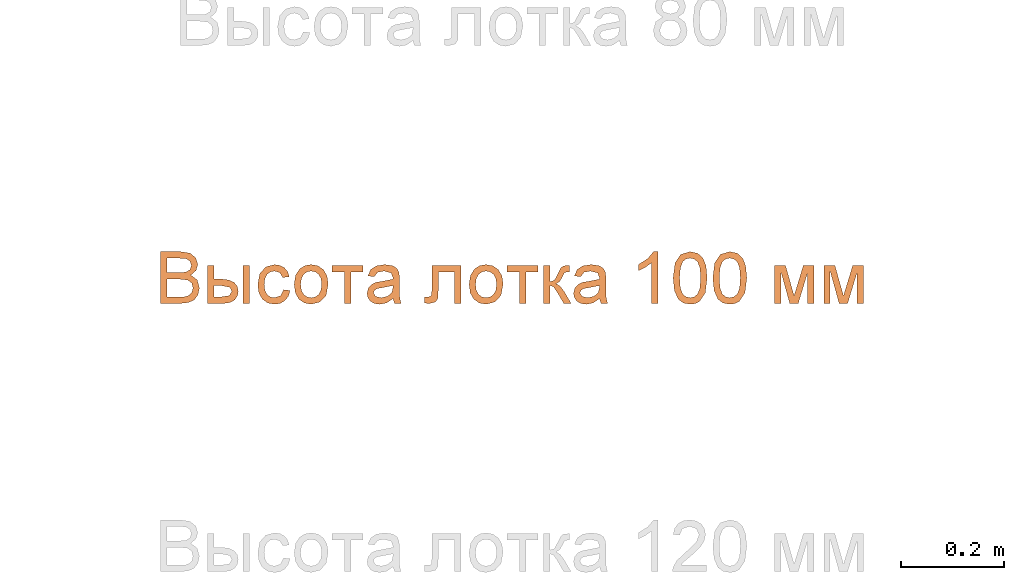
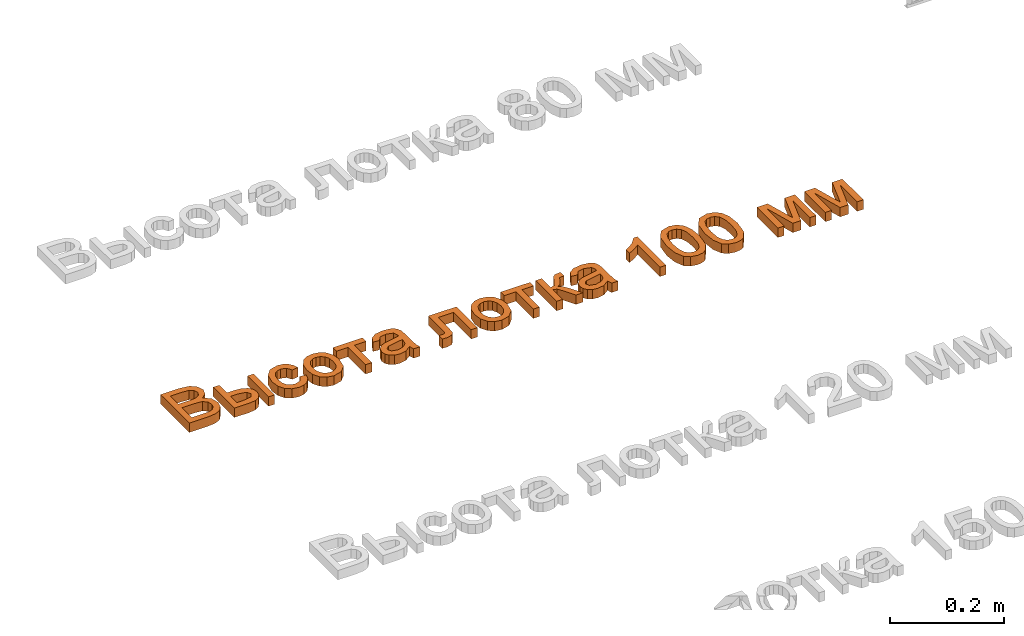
# One storey, part 26 of 71: 1 proxy.
"""IFC2X3 building model written with IfcOpenShell, lengths in millimetres."""

import ifcopenshell
import ifcopenshell.guid

model = None  # the IFC model being written
_history = None  # IfcOwnerHistory: only IFC2X3 demands one
_inside = {}  # id of a spatial element -> (the spatial element, [elements in it])
_under = {}  # id of a project, library or spatial element -> (it, [spatial elements below it])
_declared = {}  # id of a project -> (the project, [libraries it declares])
_typed = {}  # id of a type object -> (the type object, [elements of that type])
_made_of = {}  # id of a material, layer set ... -> (it, [elements and type objects made of it])


def new_model(schema):
    """Start an empty IFC model of exactly this schema.

    Asked for "IFC4X3", IfcOpenShell would pick the latest addendum, in which some entities
    have other attributes; the version numbers below select the first issue.
    IFC2X3 requires an IfcOwnerHistory on every rooted entity: one is made here for all.
    """
    global model, _history
    if schema == "IFC4X3":
        model = ifcopenshell.file(schema_version=(4, 3, 0, 0))
    else:
        model = ifcopenshell.file(schema=schema)
    _inside.clear()
    _under.clear()
    _declared.clear()
    _typed.clear()
    _made_of.clear()
    _history = None
    if model.schema == "IFC2X3":
        org = make("IfcOrganization", Name="unknown")
        user = make(
            "IfcPersonAndOrganization",
            ThePerson=make("IfcPerson", FamilyName="unknown"),
            TheOrganization=org,
        )
        app = make(
            "IfcApplication",
            ApplicationDeveloper=org,
            Version="unknown",
            ApplicationFullName="unknown",
            ApplicationIdentifier="unknown",
        )
        _history = make(
            "IfcOwnerHistory",
            OwningUser=user,
            OwningApplication=app,
            ChangeAction="ADDED",
            CreationDate=0,
        )
    return model


def make(cls, **values):
    """One entity of the class cls with the attributes given. An attribute that is None is left unset."""
    return model.create_entity(
        cls, **{name: value for name, value in values.items() if value is not None}
    )


def entity(cls, *values):
    """Any entity or typed value of the class cls, its attributes in the order of the schema. None: left unset."""
    e = model.create_entity(cls)
    for i, value in enumerate(values):
        if value is not None:
            e[i] = value
    return e


def rooted(cls, **values):
    """An entity with a GlobalId (a new one), such as an element, a storey or a relation."""
    return make(cls, GlobalId=ifcopenshell.guid.new(), OwnerHistory=_history, **values)


def si_unit(unit_type, name, prefix=None):
    """IfcSIUnit, for example si_unit("LENGTHUNIT", "METRE", prefix="MILLI")."""
    return make("IfcSIUnit", UnitType=unit_type, Prefix=prefix, Name=name)


def converted_unit(unit_type, name, factor, base, dimensions=None, offset=None):
    """IfcConversionBasedUnit, such as the inch: factor (a typed value) times the base unit."""
    return make(
        "IfcConversionBasedUnit"
        if offset is None
        else "IfcConversionBasedUnitWithOffset",
        ConversionOffset=offset,
        Dimensions=None
        if dimensions is None
        else entity("IfcDimensionalExponents", *dimensions),
        UnitType=unit_type,
        Name=name,
        ConversionFactor=make(
            "IfcMeasureWithUnit", ValueComponent=factor, UnitComponent=base
        ),
    )


def derived_unit(unit_type, elements):
    """IfcDerivedUnit: a product of units, each with its exponent."""
    return make(
        "IfcDerivedUnit",
        Elements=[
            make("IfcDerivedUnitElement", Unit=unit, Exponent=power)
            for unit, power in elements
        ],
        UnitType=unit_type,
    )


def assignment(units):
    """IfcUnitAssignment: the units of a project."""
    return None if units is None else make("IfcUnitAssignment", Units=units)


def point(xyz):
    """IfcCartesianPoint."""
    return None if xyz is None else make("IfcCartesianPoint", Coordinates=xyz)


def direction(xyz):
    """IfcDirection."""
    return None if xyz is None else make("IfcDirection", DirectionRatios=xyz)


def frame(location, z_axis=None, x_axis=None):
    """IfcAxis2Placement3D, a coordinate frame: its origin and axes. An axis left out is left unset."""
    return make(
        "IfcAxis2Placement3D",
        Location=point(location),
        Axis=direction(z_axis),
        RefDirection=direction(x_axis),
    )


def frame_2d(location, x_axis=None):
    """IfcAxis2Placement2D, a coordinate frame in the plane: its origin and x axis."""
    return make(
        "IfcAxis2Placement2D", Location=point(location), RefDirection=direction(x_axis)
    )


def origin():
    """The frame at (0, 0, 0) with its axes left unset."""
    return frame((0.0, 0.0, 0.0))


def place(relative_to, where):
    """IfcLocalPlacement: puts the frame where relative to a parent placement (None: the world)."""
    return make(
        "IfcLocalPlacement", PlacementRelTo=relative_to, RelativePlacement=where
    )


def context(
    kind, dimensions, precision=None, world=None, true_north=None, identifier=None
):
    """IfcGeometricRepresentationContext, for example the 3D "Model" context."""
    return make(
        "IfcGeometricRepresentationContext",
        ContextIdentifier=identifier,
        ContextType=kind,
        CoordinateSpaceDimension=dimensions,
        Precision=precision,
        WorldCoordinateSystem=world,
        TrueNorth=true_north,
    )


def subcontext(parent, identifier, kind, view, scale=None):
    """IfcGeometricRepresentationSubContext, for example "Body" below "Model"."""
    return make(
        "IfcGeometricRepresentationSubContext",
        ContextIdentifier=identifier,
        ContextType=kind,
        ParentContext=parent,
        TargetScale=scale,
        TargetView=view,
    )


def project(units=None, contexts=None):
    """IfcProject with its units and contexts."""
    return rooted(
        "IfcProject",
        Name="project",
        RepresentationContexts=contexts,
        UnitsInContext=assignment(units),
    )


def spatial(cls, under=None, at=None, **own):
    """A site, building, storey or space (cls), placed at a placement, below another one or the project."""
    s = rooted(cls, ObjectPlacement=at, **own)
    if under is not None:
        _under.setdefault(under.id(), (under, []))[1].append(s)
    return s


def polyline(points):
    """IfcPolyline through the points."""
    return make("IfcPolyline", Points=[point(p) for p in points])


def profile(cls, at=None, kind="AREA", **sizes):
    """A parametric profile (cls). Its sizes go by their IFC names, for example OverallWidth=200.0."""
    return make(cls, ProfileType=kind, Position=at, **sizes)


def rectangle(**sizes):
    """IfcRectangleProfileDef."""
    return profile("IfcRectangleProfileDef", **sizes)


def outline(outer, holes=None, kind="AREA"):
    """IfcArbitraryClosedProfileDef: a profile drawn as a closed curve; with holes, ...WithVoids."""
    if holes is None:
        return make("IfcArbitraryClosedProfileDef", ProfileType=kind, OuterCurve=outer)
    return make(
        "IfcArbitraryProfileDefWithVoids",
        ProfileType=kind,
        OuterCurve=outer,
        InnerCurves=holes,
    )


def extrude(swept, where, along, depth):
    """IfcExtrudedAreaSolid: the profile swept, set in the frame where, extruded along a direction by depth."""
    return make(
        "IfcExtrudedAreaSolid",
        SweptArea=swept,
        Position=where,
        ExtrudedDirection=direction(along),
        Depth=depth,
    )


def shape(context_of_items, identifier, shape_type, items):
    """IfcShapeRepresentation: the items that make up one representation, for example the "Body"."""
    return make(
        "IfcShapeRepresentation",
        ContextOfItems=context_of_items,
        RepresentationIdentifier=identifier,
        RepresentationType=shape_type,
        Items=items,
    )


def made_of(thing, what):
    """Note that an element or type object is made of a material, layer set ...; save() writes the relation."""
    if what is not None:
        _made_of.setdefault(what.id(), (what, []))[1].append(thing)
    return thing


def element(
    cls,
    number,
    at=None,
    inside=None,
    cuts=None,
    type_object=None,
    material=None,
    context=None,
    identifier="Body",
    shape_type=None,
    held_by="IfcProductDefinitionShape",
    body=None,
    shapes=None,
    **own,
):
    """One element of the class cls, such as IfcWall. Its Tag is "e" and its number.

    at: its placement. inside: the storey or other place that contains it. cuts: it is an
    opening in that element (IfcRelVoidsElement). A single representation is given by context,
    identifier, shape_type and body (its items); several are given by shapes. held_by: the class
    of the entity that holds the representations. save() writes the other relations.
    """
    e = rooted(cls, Tag="e%d" % number, ObjectPlacement=at, **own)
    if body is not None:
        shapes = [shape(context, identifier, shape_type, body)]
    if shapes is not None:
        e.Representation = make(held_by, Representations=shapes)
    if inside is not None:
        _inside.setdefault(inside.id(), (inside, []))[1].append(e)
    if cuts is not None:
        rooted(
            "IfcRelVoidsElement", RelatingBuildingElement=cuts, RelatedOpeningElement=e
        )
    if type_object is not None:
        _typed.setdefault(type_object.id(), (type_object, []))[1].append(e)
    return made_of(e, material)


def aggregate(whole, parts):
    """IfcRelAggregates: a whole, such as a stair, and the parts it consists of."""
    return rooted("IfcRelAggregates", RelatingObject=whole, RelatedObjects=parts)


def save(model, path):
    """Write the relations noted so far, then the file.

    IfcRelAggregates (storeys below a building ...), IfcRelContainedInSpatialStructure (elements
    in a storey), IfcRelDefinesByType, IfcRelAssociatesMaterial and IfcRelDeclares: one each for
    every whole, place, type object, material and project.
    """
    for whole, parts in _under.values():
        aggregate(whole, parts)
    for where, things in _inside.values():
        rooted(
            "IfcRelContainedInSpatialStructure",
            RelatedElements=things,
            RelatingStructure=where,
        )
    for kind, things in _typed.values():
        rooted("IfcRelDefinesByType", RelatedObjects=things, RelatingType=kind)
    for what, things in _made_of.values():
        rooted("IfcRelAssociatesMaterial", RelatedObjects=things, RelatingMaterial=what)
    for by, libraries in _declared.values():
        rooted("IfcRelDeclares", RelatingContext=by, RelatedDefinitions=libraries)
    model.write(path)


model = new_model("IFC2X3")

# Units and contexts
model_context = context("Model", 3, precision=0.01, world=origin(), true_north=direction((6.12303176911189e-17, 1.0)))
body_context = subcontext(model_context, "Body", "Model", "MODEL_VIEW")
ifc_project = project(units=[si_unit("LENGTHUNIT", "METRE", prefix="MILLI"), si_unit("AREAUNIT", "SQUARE_METRE"), si_unit("VOLUMEUNIT", "CUBIC_METRE"), converted_unit("PLANEANGLEUNIT", "DEGREE", entity("IfcRatioMeasure", 0.0174532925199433), si_unit("PLANEANGLEUNIT", "RADIAN"), dimensions=[0, 0, 0, 0, 0, 0, 0]), si_unit("MASSUNIT", "GRAM", prefix="KILO"), derived_unit("MASSDENSITYUNIT", [(si_unit("MASSUNIT", "GRAM", prefix="KILO"), 1), (si_unit("LENGTHUNIT", "METRE"), -3)]), si_unit("TIMEUNIT", "SECOND"), si_unit("FREQUENCYUNIT", "HERTZ"), si_unit("THERMODYNAMICTEMPERATUREUNIT", "DEGREE_CELSIUS"), derived_unit("THERMALTRANSMITTANCEUNIT", [(si_unit("MASSUNIT", "GRAM", prefix="KILO"), 1), (si_unit("THERMODYNAMICTEMPERATUREUNIT", "KELVIN"), -1), (si_unit("TIMEUNIT", "SECOND"), -3)]), derived_unit("VOLUMETRICFLOWRATEUNIT", [(si_unit("LENGTHUNIT", "METRE"), 3), (si_unit("TIMEUNIT", "SECOND"), -1)]), si_unit("ELECTRICCURRENTUNIT", "AMPERE"), si_unit("ELECTRICVOLTAGEUNIT", "VOLT"), si_unit("POWERUNIT", "WATT"), si_unit("FORCEUNIT", "NEWTON", prefix="KILO"), si_unit("ILLUMINANCEUNIT", "LUX"), si_unit("LUMINOUSFLUXUNIT", "LUMEN"), si_unit("LUMINOUSINTENSITYUNIT", "CANDELA"), derived_unit("USERDEFINED", [(si_unit("MASSUNIT", "GRAM", prefix="KILO"), -1), (si_unit("LENGTHUNIT", "METRE"), -2), (si_unit("TIMEUNIT", "SECOND"), 3), (si_unit("LUMINOUSFLUXUNIT", "LUMEN"), 1)]), derived_unit("LINEARVELOCITYUNIT", [(si_unit("LENGTHUNIT", "METRE"), 1), (si_unit("TIMEUNIT", "SECOND"), -1)]), si_unit("PRESSUREUNIT", "PASCAL"), derived_unit("USERDEFINED", [(si_unit("LENGTHUNIT", "METRE"), -2), (si_unit("MASSUNIT", "GRAM", prefix="KILO"), 1), (si_unit("TIMEUNIT", "SECOND"), -2)])], contexts=[model_context])

# Site, building, storey
site_placement = place(None, origin())
site = spatial("IfcSite", under=ifc_project, at=site_placement, Name="Default", CompositionType="ELEMENT")
building_placement = place(site_placement, origin())
building = spatial("IfcBuilding", under=site, at=building_placement, Name="Наименование здания", CompositionType="ELEMENT")
storey_placement = place(building_placement, origin())
storey = spatial("IfcBuildingStorey", under=building, at=storey_placement, Name="Этаж 01", CompositionType="ELEMENT", Elevation=0.0)

# Proxy
proxy_placement = place(storey_placement, origin())
element("IfcBuildingElementProxy", 1, at=proxy_placement, inside=storey, Name="Текст модели:100 мм Arial", ObjectType="Текст модели:100 мм Arial", context=body_context, shape_type="SweptSolid", body=[
    extrude(outline(polyline([(-52.8068326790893, -48.6909338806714), (-14.7678343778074, -48.6909338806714), (1.33313427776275, -46.9618885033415), (12.2592295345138, -41.8605915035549), (19.5800812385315, -32.2466086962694), (22.5353999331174, -18.7453394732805), (18.2066551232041, -3.12261741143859), (5.83355735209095, 6.24611073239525), (16.0238886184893, 15.1365922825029), (19.3961402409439, 26.8720279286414), (15.3862264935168, 39.723372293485), (4.30071570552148, 48.810057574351), (-14.4735287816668, 51.7653762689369), (-52.8068326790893, 51.7653762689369), (-52.8068326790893, -48.6909338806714)]), holes=[polyline([(-40.2497939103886, 10.9550002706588), (-40.2497939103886, 39.2083375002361), (-19.0597909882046, 39.2083375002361), (-2.92203413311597, 37.8962250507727), (4.31297843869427, 33.0524454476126), (6.83910147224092, 24.8609396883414), (4.12903744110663, 16.6816966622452), (-3.92757825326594, 12.0341207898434), (-17.3184828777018, 10.9550002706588), (-40.2497939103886, 10.9550002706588)]), polyline([(-40.2497939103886, -36.1338951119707), (-40.2497939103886, -1.60203849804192), (-15.7243275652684, -1.60203849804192), (-0.211970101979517, -3.2820329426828), (7.57486546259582, -9.1068311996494), (9.97836116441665, -18.8679668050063), (7.93048472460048, -27.3292526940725), (2.70656039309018, -32.9087962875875), (-5.17837703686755, -35.6433857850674), (-14.4980542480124, -36.1338951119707), (-40.2497939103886, -36.1338951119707)])]), frame((9929.87567637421, -12417.8794073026, 0.0)), (0.0, 0.0, 1.0), 20.0),
    extrude(outline(polyline([(-42.3988715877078, -34.5139341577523), (31.3737311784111, -34.5139341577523), (31.3737311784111, -3.73447389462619), (29.6538828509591, 9.3161398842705), (24.4943378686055, 18.2526066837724), (16.9129030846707, 23.4121516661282), (7.92738535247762, 25.1319999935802), (-1.94104916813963, 23.0810578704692), (-9.42438208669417, 16.9282315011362), (-14.1424686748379, 6.9862205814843), (-15.7151642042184, -6.43227519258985), (-15.7151642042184, -21.9568953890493), (-42.3988715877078, -21.9568953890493), (-42.3988715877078, -34.5139341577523)]), holes=[polyline([(18.8166924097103, -21.9568953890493), (-3.15812543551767, -21.9568953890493), (-3.15812543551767, -7.41329384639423), (0.226388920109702, 8.88387853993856), (7.95191081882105, 12.5749612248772), (16.1802047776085, 7.59629155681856), (18.8166924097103, -9.05650009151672), (18.8166924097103, -21.9568953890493)])]), frame((10002.621308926, -12435.1966100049, 0.0), z_axis=(0.0, 0.0, 1.0), x_axis=(0.0, -1.0, 0.0)), (0.0, 0.0, 1.0), 20.0),
    extrude(outline(polyline([(0.267683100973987, -20.7200562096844), (-4.02278247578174, -32.6253015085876), (7.51957889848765, -34.5647704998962), (18.024291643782, -32.524098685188), (26.8500141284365, -26.8719753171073), (33.3554047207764, -17.9770896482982), (37.2076783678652, -4.95154901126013), (35.3403176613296, 7.71415747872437), (27.6846262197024, 19.1676933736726), (14.1719076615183, 28.5567222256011), (-6.16200624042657, 34.5864889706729), (-23.4110955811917, 30.2307841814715), (-35.1302422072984, 17.0254849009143), (-38.5714296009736, 6.87231136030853), (-38.3156698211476, -2.77330902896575), (-34.4593562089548, -11.5597521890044), (-27.0988821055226, -19.1353940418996), (-20.0099089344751, -8.65257858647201), (-25.7552259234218, 0.801697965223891), (-23.9806627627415, 11.2483121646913), (-18.9208808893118, 17.7794646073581), (-11.8538304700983, 21.4126833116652), (-2.8110051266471, 21.531205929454), (8.17610151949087, 17.5182701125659), (18.0468481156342, 10.9639331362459), (23.3470531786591, 3.65828147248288), (24.6053297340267, -4.07586677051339), (22.3502908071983, -11.9156934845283), (13.5558525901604, -20.7200562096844), (0.267683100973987, -20.7200562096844)])), frame((10097.3028800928, -12430.2595425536, 0.0), z_axis=(0.0, 0.0, -1.0), x_axis=(-0.45310996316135, -0.891454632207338, 0.0)), (0.0, 0.0, -1.0), 20.0),
    extrude(outline(polyline([(-2.34029740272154, -31.6984909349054), (14.2731811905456, -31.6984909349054), (27.1869525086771, -26.5873672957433), (35.9909592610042, -17.1811275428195), (40.275144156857, -4.29577920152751), (38.1491713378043, 13.1690451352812), (27.251495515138, 26.6485362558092), (5.67797919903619, 33.7446283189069), (-10.1280544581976, 33.6081083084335), (-22.8059382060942, 28.3900569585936), (-31.6389568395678, 18.9754531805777), (-35.9103951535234, 6.24927588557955), (-35.5406401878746, -5.97109031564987), (-30.8535887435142, -16.7835237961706), (-19.5870121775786, -26.5692340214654), (-2.34029740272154, -31.6984909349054)]), holes=[polyline([(-0.642949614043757, -19.2566729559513), (-11.6948097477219, -16.2599663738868), (-19.0989004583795, -10.8341828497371), (-22.9822632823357, -3.67356758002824), (-23.4719397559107, 4.52763423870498), (-20.7783225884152, 12.2046648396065), (-15.0781786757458, 18.0357050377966), (-6.56600936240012, 21.286328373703), (4.56368400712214, 21.2221083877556), (15.8675929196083, 18.1905150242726), (23.3961896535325, 12.7474982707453), (27.3267847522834, 5.59272509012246), (27.8366887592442, -2.57413755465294), (25.1317228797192, -10.3331599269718), (19.431158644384, -16.1672368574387), (10.8134498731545, -19.3753979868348), (-0.642949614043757, -19.2566729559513)])]), frame((10167.777780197, -12427.6561924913, 0.0), z_axis=(0.0, 0.0, 1.0), x_axis=(0.137105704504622, -0.990556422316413, 0.0)), (0.0, 0.0, 1.0), 20.0),
    extrude(outline(polyline([(-24.7216700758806, -29.8229670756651), (-12.1646313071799, -29.8229670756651), (-12.1646313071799, -6.27851938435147), (49.0509326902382, -6.27851938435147), (49.0509326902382, 6.2785193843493), (-12.1646313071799, 6.2785193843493), (-12.1646313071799, 29.8229670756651), (-24.7216700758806, 29.8229670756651), (-24.7216700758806, -29.8229670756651)])), frame((10239.6533381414, -12417.5194084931, 0.0), z_axis=(0.0, 0.0, 1.0), x_axis=(0.0, -1.0, 0.0)), (0.0, 0.0, 1.0), 20.0),
    extrude(outline(polyline([(32.0508237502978, 7.88266535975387), (41.9780345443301, 7.88266535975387), (45.948918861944, 19.7953183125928), (35.1414436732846, 20.7608946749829), (14.2438893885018, 27.0545912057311), (-0.577126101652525, 31.9949297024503), (-11.194588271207, 34.8877809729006), (-20.4974705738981, 33.9299602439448), (-28.5323068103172, 27.5470739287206), (-35.4619652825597, 13.8157249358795), (-38.3044049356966, -2.69989645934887), (-34.9462156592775, -15.3493345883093), (-25.030638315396, -24.3807697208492), (-19.570672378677, -12.964477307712), (-25.786812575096, -4.5069590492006), (-24.0611841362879, 8.30922519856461), (-16.2279943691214, 20.3304570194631), (-6.33956174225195, 20.6794605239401), (-3.71040200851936, 19.7255176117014), (-6.50243004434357, -2.30048133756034), (-8.14662433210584, -13.20490194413), (-7.01817966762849, -22.8490321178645), (-2.17478658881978, -31.1204151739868), (6.48825595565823, -36.5416029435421), (15.0010331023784, -37.7020395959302), (22.9495879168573, -35.3200906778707), (29.6378522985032, -29.389939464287), (34.3697581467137, -19.9057692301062), (36.2737661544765, -6.36055543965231), (32.0508237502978, 7.88266535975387)]), holes=[polyline([(8.22551784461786, 15.8244339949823), (11.575951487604, 14.6300664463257), (20.1614376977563, 9.67421668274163), (24.4696920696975, -0.396473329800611), (23.3024692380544, -13.3987927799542), (17.2491973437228, -22.949855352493), (9.62153186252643, -24.3497471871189), (5.58084684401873, -21.193204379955), (3.9870641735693, -15.5044472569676), (5.47226797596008, -4.61166010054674), (8.22551784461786, 15.8244339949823)])]), frame((10309.9390961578, -12429.2391985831, 0.0), z_axis=(0.0, 0.0, 1.0), x_axis=(0.316227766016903, -0.948683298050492, 0.0)), (0.0, 0.0, 1.0), 20.0),
    extrude(outline(polyline([(-49.3689973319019, 12.5447760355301), (-49.3689973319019, -43.9618984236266), (24.3300290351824, -43.9618984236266), (24.3300290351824, -31.4048596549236), (-36.8119585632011, -31.4048596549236), (-36.8119585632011, -0.0122627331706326), (-1.61791435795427, -0.0122627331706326), (14.6179443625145, 0.833865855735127), (21.4728122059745, 5.48144172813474), (24.403605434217, 16.4688506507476), (23.7659433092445, 26.6714446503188), (11.8465666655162, 26.6714446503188), (11.8465666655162, 21.0551128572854), (11.0740144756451, 15.3774673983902), (8.62146784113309, 13.108861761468), (-2.32915288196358, 12.5447760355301), (-49.3689973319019, 12.5447760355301)])), frame((10415.43961817, -12442.1667357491, 0.0), z_axis=(0.0, 0.0, -1.0), x_axis=(0.0, -1.0, 0.0)), (0.0, 0.0, -1.0), 20.0),
    extrude(outline(polyline([(-2.34029740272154, -31.6984909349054), (14.2731811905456, -31.6984909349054), (27.1869525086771, -26.5873672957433), (35.9909592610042, -17.1811275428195), (40.275144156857, -4.29577920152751), (38.1491713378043, 13.1690451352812), (27.251495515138, 26.6485362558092), (5.67797919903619, 33.7446283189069), (-10.1280544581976, 33.6081083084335), (-22.8059382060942, 28.3900569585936), (-31.6389568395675, 18.9754531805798), (-35.9103951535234, 6.24927588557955), (-35.5406401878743, -5.97109031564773), (-30.8535887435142, -16.7835237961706), (-19.5870121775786, -26.5692340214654), (-2.34029740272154, -31.6984909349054)]), holes=[polyline([(-0.642949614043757, -19.2566729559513), (-11.6948097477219, -16.2599663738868), (-19.0989004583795, -10.8341828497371), (-22.9822632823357, -3.67356758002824), (-23.4719397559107, 4.52763423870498), (-20.7783225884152, 12.2046648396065), (-15.0781786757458, 18.0357050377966), (-6.56600936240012, 21.286328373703), (4.56368400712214, 21.2221083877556), (15.8675929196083, 18.1905150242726), (23.3961896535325, 12.7474982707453), (27.3267847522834, 5.59272509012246), (27.8366887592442, -2.57413755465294), (25.1317228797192, -10.3331599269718), (19.431158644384, -16.1672368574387), (10.8134498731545, -19.3753979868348), (-0.642949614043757, -19.2566729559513)])]), frame((10506.817826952, -12427.6561924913, 0.0), z_axis=(0.0, 0.0, 1.0), x_axis=(0.137105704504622, -0.990556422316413, 0.0)), (0.0, 0.0, 1.0), 20.0),
    extrude(outline(polyline([(-24.7216700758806, -29.8229670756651), (-12.1646313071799, -29.8229670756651), (-12.1646313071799, -6.27851938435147), (49.0509326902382, -6.27851938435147), (49.0509326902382, 6.2785193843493), (-12.1646313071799, 6.2785193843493), (-12.1646313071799, 29.8229670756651), (-24.7216700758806, 29.8229670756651), (-24.7216700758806, -29.8229670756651)])), frame((10578.6933848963, -12417.5194084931, 0.0), z_axis=(0.0, 0.0, 1.0), x_axis=(0.0, -1.0, 0.0)), (0.0, 0.0, 1.0), 20.0),
    extrude(outline(polyline([(-30.3295712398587, -29.535303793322), (43.4430315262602, -29.535303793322), (43.4430315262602, -16.9782650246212), (8.91117491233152, -16.9782650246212), (11.2288314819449, -10.2337617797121), (20.8060260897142, -3.61188586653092), (43.4430315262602, 9.55828956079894), (43.4430315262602, 23.832110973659), (20.3155167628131, 10.3921554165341), (10.0209522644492, 2.61758258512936), (5.13425309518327, -5.3041430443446), (0.75645735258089, 1.79597946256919), (-8.18307513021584, 6.86048826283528), (-16.4481572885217, 11.1769703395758), (-17.7725324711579, 17.3083369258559), (-17.6989560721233, 20.6928512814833), (-30.3295712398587, 20.6928512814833), (-30.3295712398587, 18.2893555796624), (-29.3730780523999, 9.10456843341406), (-25.681995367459, 4.05232236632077), (-14.3389671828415, -1.6743740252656), (-1.19331722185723, -8.56603006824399), (1.06302568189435, -16.9782650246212), (-30.3295712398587, -16.9782650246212), (-30.3295712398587, -29.535303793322)])), frame((10649.0390646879, -12423.127309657, 0.0), z_axis=(0.0, 0.0, 1.0), x_axis=(0.0, -1.0, 0.0)), (0.0, 0.0, 1.0), 20.0),
    extrude(rectangle(XDim=73.7726027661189, YDim=12.5570387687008, at=frame_2d((1.08357767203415e-12, 1.08268949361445e-12), x_axis=(1.0, 0.0))), frame((10043.4496073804, -12429.6840398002, 0.0), z_axis=(0.0, 0.0, 1.0), x_axis=(0.0, -1.0, 0.0)), (0.0, 0.0, 1.0), 20.0),
    extrude(outline(polyline([(32.0508237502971, 7.88266535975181), (41.9780345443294, 7.88266535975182), (45.9489188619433, 19.7953183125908), (35.1414436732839, 20.7608946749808), (14.2438893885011, 27.054591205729), (-0.57712610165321, 31.9949297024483), (-11.1945882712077, 34.8877809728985), (-20.4974705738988, 33.9299602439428), (-28.5323068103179, 27.5470739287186), (-35.4619652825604, 13.8157249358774), (-38.3044049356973, -2.69989645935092), (-34.9462156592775, -15.3493345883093), (-25.0306383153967, -24.3807697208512), (-19.570672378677, -12.964477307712), (-25.7868125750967, -4.50695904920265), (-24.0611841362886, 8.30922519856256), (-16.2279943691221, 20.330457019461), (-6.33956174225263, 20.679460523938), (-3.71040200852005, 19.7255176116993), (-6.50243004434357, -2.30048133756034), (-8.14662433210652, -13.2049019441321), (-7.01817966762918, -22.8490321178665), (-2.17478658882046, -31.1204151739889), (6.48825595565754, -36.5416029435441), (15.0010331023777, -37.7020395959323), (22.9495879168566, -35.3200906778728), (29.6378522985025, -29.3899394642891), (34.3697581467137, -19.9057692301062), (36.2737661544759, -6.36055543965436), (32.0508237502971, 7.88266535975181)]), holes=[polyline([(8.22551784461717, 15.8244339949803), (11.5759514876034, 14.6300664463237), (20.1614376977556, 9.67421668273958), (24.4696920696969, -0.396473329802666), (23.3024692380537, -13.3987927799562), (17.2491973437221, -22.949855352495), (9.62153186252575, -24.349747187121), (5.58084684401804, -21.1932043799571), (3.98706417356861, -15.5044472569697), (5.4722679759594, -4.61166010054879), (8.22551784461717, 15.8244339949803)])]), frame((10710.1947069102, -12429.2391985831, 0.0), z_axis=(0.0, 0.0, 1.0), x_axis=(0.316227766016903, -0.948683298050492, 0.0)), (0.0, 0.0, 1.0), 20.0),
    extrude(outline(polyline([(-63.8793021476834, -16.918484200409), (36.5770080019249, -16.918484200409), (36.5770080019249, -8.82508030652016), (23.2106288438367, 2.34626961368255), (11.4629304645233, 20.7526321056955), (-0.40739524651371, 20.7526321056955), (5.93243780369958, 7.53340574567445), (14.4059864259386, -4.3614454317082), (-63.8793021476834, -4.3614454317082), (-63.8793021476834, -16.918484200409)])), frame((10823.9030849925, -12402.6910390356, 0.0), z_axis=(0.0, 0.0, 1.0), x_axis=(0.0, 1.0, 0.0)), (0.0, 0.0, 1.0), 20.0),
    extrude(outline(polyline([(-7.02884310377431, -33.3490673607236), (17.5323805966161, -33.3490673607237), (35.1984171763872, -27.6137612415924), (43.3439841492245, -18.4876517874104), (47.0516941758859, -5.75150665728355), (46.7162020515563, 4.48638208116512), (43.4465778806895, 13.0955287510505), (27.9444305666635, 25.6659118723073), (-0.314338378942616, 32.2325535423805), (-24.029650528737, 32.367828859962), (-39.4143020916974, 28.0260881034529), (-49.7293680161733, 18.9002174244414), (-54.4436715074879, 4.63998875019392), (-50.8676582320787, -14.130105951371), (-35.4058547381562, -26.7333390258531), (-7.02884310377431, -33.3490673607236)]), holes=[polyline([(-5.77428774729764, -20.8548320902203), (-25.0157644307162, -17.3562860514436), (-36.7257089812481, -11.5717922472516), (-41.0962588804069, -4.7759968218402), (-41.9669219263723, 3.21464792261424), (-39.2244253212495, 11.2791292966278), (-32.8654063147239, 17.2229259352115), (-20.9698370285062, 20.2947501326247), (-1.6176895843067, 19.7433141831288), (17.8514140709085, 16.2707701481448), (28.7803640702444, 10.7141596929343), (33.5546988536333, 3.61815959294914), (34.5599568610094, -4.47255337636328), (31.9421230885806, -12.1923199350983), (25.8471825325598, -18.1754808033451), (14.0250679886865, -21.4027476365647), (-5.77428774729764, -20.8548320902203)])]), frame((10904.536073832, -12420.747164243, 0.0), z_axis=(0.0, 0.0, 1.0), x_axis=(0.1018515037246, -0.994799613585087, 0.0)), (0.0, 0.0, 1.0), 20.0),
    extrude(outline(polyline([(-7.02884310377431, -33.3490673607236), (17.5323805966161, -33.3490673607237), (35.1984171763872, -27.6137612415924), (43.3439841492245, -18.4876517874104), (47.0516941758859, -5.75150665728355), (46.7162020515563, 4.48638208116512), (43.4465778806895, 13.0955287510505), (27.9444305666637, 25.6659118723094), (-0.314338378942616, 32.2325535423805), (-24.029650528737, 32.367828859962), (-39.4143020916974, 28.0260881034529), (-49.7293680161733, 18.9002174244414), (-54.4436715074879, 4.63998875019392), (-50.8676582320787, -14.130105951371), (-35.4058547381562, -26.7333390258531), (-7.02884310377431, -33.3490673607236)]), holes=[polyline([(-5.77428774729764, -20.8548320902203), (-25.0157644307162, -17.3562860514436), (-36.7257089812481, -11.5717922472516), (-41.0962588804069, -4.7759968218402), (-41.9669219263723, 3.21464792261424), (-39.2244253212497, 11.2791292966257), (-32.8654063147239, 17.2229259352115), (-20.9698370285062, 20.2947501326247), (-1.6176895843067, 19.7433141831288), (17.8514140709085, 16.2707701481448), (28.7803640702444, 10.7141596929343), (33.5546988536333, 3.61815959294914), (34.5599568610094, -4.47255337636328), (31.9421230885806, -12.1923199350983), (25.8471825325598, -18.1754808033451), (14.0250679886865, -21.4027476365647), (-5.77428774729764, -20.8548320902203)])]), frame((10981.4479362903, -12420.747164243, 0.0), z_axis=(0.0, 0.0, 1.0), x_axis=(0.1018515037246, -0.994799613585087, 0.0)), (0.0, 0.0, 1.0), 20.0),
    extrude(outline(polyline([(-40.5839870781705, -38.4502715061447), (33.1886156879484, -38.4502715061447), (33.1886156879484, -25.893232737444), (-29.0570178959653, -25.893232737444), (33.1886156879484, -8.6273044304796), (33.1886156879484, 7.85380895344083), (-26.2120637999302, 25.9045521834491), (33.1886156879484, 25.9045521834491), (33.1886156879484, 38.4615909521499), (-40.5839870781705, 38.4615909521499), (-40.5839870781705, 17.7620973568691), (18.4733358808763, -0.190544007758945), (-40.5839870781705, -16.8433356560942), (-40.5839870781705, -38.4502715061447)])), frame((11105.2985385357, -12433.3817254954, 0.0), z_axis=(0.0, 0.0, 1.0), x_axis=(0.0, -1.0, 0.0)), (0.0, 0.0, 1.0), 20.0),
    extrude(outline(polyline([(-40.5839870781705, -38.4502715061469), (33.1886156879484, -38.4502715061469), (33.1886156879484, -25.8932327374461), (-29.0570178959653, -25.8932327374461), (33.1886156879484, -8.62730443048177), (33.1886156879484, 7.85380895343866), (-26.2120637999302, 25.904552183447), (33.1886156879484, 25.904552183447), (33.1886156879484, 38.4615909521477), (-40.5839870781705, 38.4615909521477), (-40.5839870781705, 17.762097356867), (18.4733358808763, -0.19054400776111), (-40.5839870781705, -16.8433356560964), (-40.5839870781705, -38.4502715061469)])), frame((11201.0459591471, -12433.3817254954, 0.0), z_axis=(0.0, 0.0, 1.0), x_axis=(0.0, -1.0, 0.0)), (0.0, 0.0, 1.0), 20.0),
])

save(model, "model.ifc")
